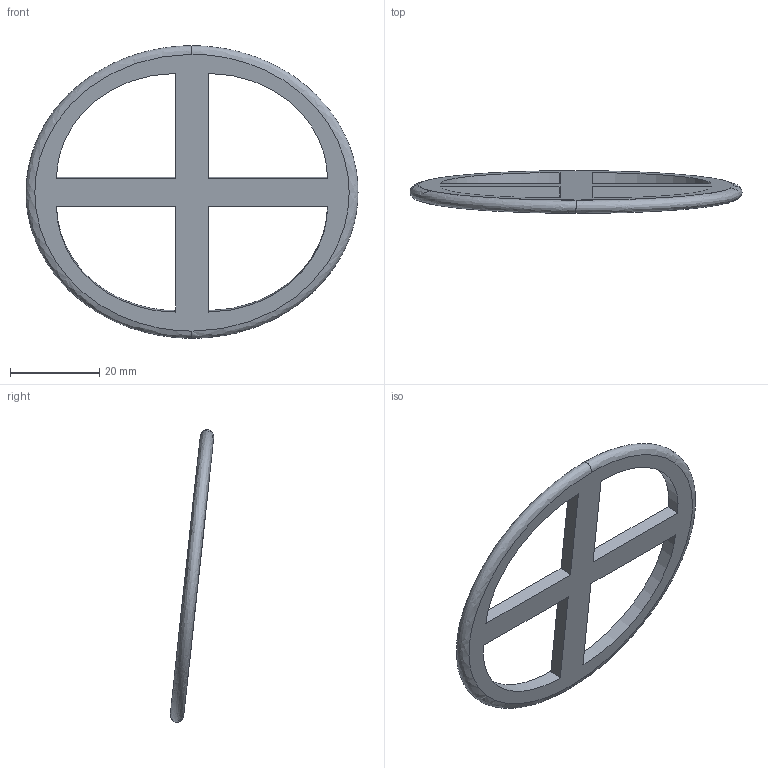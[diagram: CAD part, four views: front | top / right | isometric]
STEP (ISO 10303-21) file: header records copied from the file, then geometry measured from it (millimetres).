
FILE_DESCRIPTION(/* description */ (''),/* implementation_level */ '2;1');
FILE_NAME(/* name */ 'XL-WID~3',/* time_stamp */ '2020-04-10T21:52:26+03:00',/* author */ (''),/* organization */ (''),/* preprocessor_version */ 'ST-DEVELOPER v16.5',/* originating_system */ '',/* authorisation */ '');
FILE_SCHEMA (('AUTOMOTIVE_DESIGN'));
Length unit declared in the file: millimetre
Products named in the file (1): Document
Bounding box: 74.31 x 9.69 x 65.48 mm (x, y, z)
Volume: 5303.2 mm3; surface area: 5133.9 mm2
Topology: 1 solids, 1 shells, 18 faces, 46 edges, 30 vertices
Faces by surface type: plane 10, bspline 8
Entity records: 1332 total; most frequent: CARTESIAN_POINT 1006, ORIENTED_EDGE 92, EDGE_CURVE 46, VERTEX_POINT 30, EDGE_LOOP 26, B_SPLINE_CURVE_WITH_KNOTS 24, ADVANCED_FACE 18, FACE_OUTER_BOUND 18
